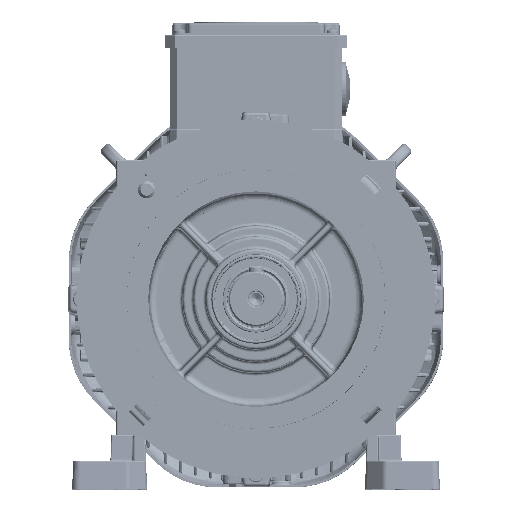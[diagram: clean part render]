
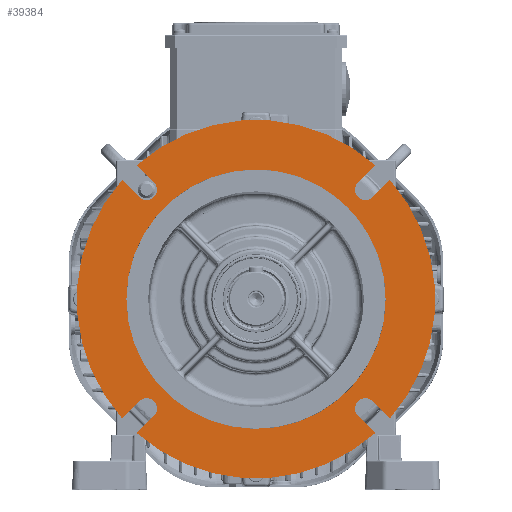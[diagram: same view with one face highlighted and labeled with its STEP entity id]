
A CAD part, top view. The second image highlights one B-rep face of the part: STEP entity #39384.
In plain terms, the highlighted planar face has unit normal (0, 0, 1).
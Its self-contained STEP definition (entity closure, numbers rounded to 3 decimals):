
#23067=FACE_BOUND('',#69487,.T.);
#23068=FACE_BOUND('',#69488,.T.);
#26090=PLANE('',#247770);
#39384=ADVANCED_FACE('',(#23067,#23068),#26090,.T.);
#69487=EDGE_LOOP('',(#128634,#128635,#128636,#128637,#128638,#128639,#128640,
#128641,#128642,#128643,#128644,#128645,#128646,#128647,#128648,#128649));
#69488=EDGE_LOOP('',(#128650));
#128634=ORIENTED_EDGE('',*,*,#184711,.F.);
#128635=ORIENTED_EDGE('',*,*,#184712,.F.);
#128636=ORIENTED_EDGE('',*,*,#184713,.F.);
#128637=ORIENTED_EDGE('',*,*,#184707,.T.);
#128638=ORIENTED_EDGE('',*,*,#184714,.F.);
#128639=ORIENTED_EDGE('',*,*,#184715,.F.);
#128640=ORIENTED_EDGE('',*,*,#184716,.F.);
#128641=ORIENTED_EDGE('',*,*,#184710,.T.);
#128642=ORIENTED_EDGE('',*,*,#184717,.F.);
#128643=ORIENTED_EDGE('',*,*,#184718,.F.);
#128644=ORIENTED_EDGE('',*,*,#184719,.F.);
#128645=ORIENTED_EDGE('',*,*,#184720,.T.);
#128646=ORIENTED_EDGE('',*,*,#184721,.F.);
#128647=ORIENTED_EDGE('',*,*,#184722,.F.);
#128648=ORIENTED_EDGE('',*,*,#184723,.F.);
#128649=ORIENTED_EDGE('',*,*,#184703,.T.);
#128650=ORIENTED_EDGE('',*,*,#184724,.F.);
#153673=VERTEX_POINT('',#460295);
#153674=VERTEX_POINT('',#460297);
#153675=VERTEX_POINT('',#460301);
#153676=VERTEX_POINT('',#460303);
#153677=VERTEX_POINT('',#460307);
#153678=VERTEX_POINT('',#460309);
#153679=VERTEX_POINT('',#460313);
#153680=VERTEX_POINT('',#460315);
#153681=VERTEX_POINT('',#460318);
#153682=VERTEX_POINT('',#460320);
#153683=VERTEX_POINT('',#460323);
#153684=VERTEX_POINT('',#460325);
#153685=VERTEX_POINT('',#460327);
#153686=VERTEX_POINT('',#460329);
#153687=VERTEX_POINT('',#460331);
#153688=VERTEX_POINT('',#460333);
#153689=VERTEX_POINT('',#460336);
#184703=EDGE_CURVE('',#153674,#153673,#223298,.T.);
#184707=EDGE_CURVE('',#153675,#153676,#223299,.T.);
#184710=EDGE_CURVE('',#153677,#153678,#223300,.T.);
#184711=EDGE_CURVE('',#153679,#153673,#198920,.T.);
#184712=EDGE_CURVE('',#153680,#153679,#223301,.T.);
#184713=EDGE_CURVE('',#153675,#153680,#198921,.T.);
#184714=EDGE_CURVE('',#153681,#153676,#198922,.T.);
#184715=EDGE_CURVE('',#153682,#153681,#223302,.T.);
#184716=EDGE_CURVE('',#153677,#153682,#198923,.T.);
#184717=EDGE_CURVE('',#153683,#153678,#198924,.T.);
#184718=EDGE_CURVE('',#153684,#153683,#223303,.T.);
#184719=EDGE_CURVE('',#153685,#153684,#198925,.T.);
#184720=EDGE_CURVE('',#153685,#153686,#223304,.T.);
#184721=EDGE_CURVE('',#153687,#153686,#198926,.T.);
#184722=EDGE_CURVE('',#153688,#153687,#223305,.T.);
#184723=EDGE_CURVE('',#153674,#153688,#198927,.T.);
#184724=EDGE_CURVE('',#153689,#153689,#223306,.T.);
#198920=LINE('',#460312,#210531);
#198921=LINE('',#460316,#210532);
#198922=LINE('',#460317,#210533);
#198923=LINE('',#460321,#210534);
#198924=LINE('',#460322,#210535);
#198925=LINE('',#460326,#210536);
#198926=LINE('',#460330,#210537);
#198927=LINE('',#460334,#210538);
#210531=VECTOR('',#306086,1.);
#210532=VECTOR('',#306089,1.);
#210533=VECTOR('',#306090,1.);
#210534=VECTOR('',#306093,1.);
#210535=VECTOR('',#306094,1.);
#210536=VECTOR('',#306097,1.);
#210537=VECTOR('',#306100,1.);
#210538=VECTOR('',#306103,1.);
#223298=CIRCLE('',#247758,124.5);
#223299=CIRCLE('',#247760,124.5);
#223300=CIRCLE('',#247762,124.5);
#223301=CIRCLE('',#247764,7.25);
#223302=CIRCLE('',#247765,7.25);
#223303=CIRCLE('',#247766,7.25);
#223304=CIRCLE('',#247767,124.5);
#223305=CIRCLE('',#247768,7.25);
#223306=CIRCLE('',#247769,90.);
#247758=AXIS2_PLACEMENT_3D('',#460296,#306069,#306070);
#247760=AXIS2_PLACEMENT_3D('',#460304,#306076,#306077);
#247762=AXIS2_PLACEMENT_3D('',#460310,#306082,#306083);
#247764=AXIS2_PLACEMENT_3D('',#460314,#306087,#306088);
#247765=AXIS2_PLACEMENT_3D('',#460319,#306091,#306092);
#247766=AXIS2_PLACEMENT_3D('',#460324,#306095,#306096);
#247767=AXIS2_PLACEMENT_3D('',#460328,#306098,#306099);
#247768=AXIS2_PLACEMENT_3D('',#460332,#306101,#306102);
#247769=AXIS2_PLACEMENT_3D('',#460335,#306104,#306105);
#247770=AXIS2_PLACEMENT_3D('',#460337,#306106,#306107);
#306069=DIRECTION('',(0.,0.,1.));
#306070=DIRECTION('',(0.707,-0.707,0.));
#306076=DIRECTION('',(0.,0.,1.));
#306077=DIRECTION('',(0.707,-0.707,0.));
#306082=DIRECTION('',(0.,0.,1.));
#306083=DIRECTION('',(0.707,-0.707,0.));
#306086=DIRECTION('',(0.707,0.707,0.));
#306087=DIRECTION('',(0.,0.,1.));
#306088=DIRECTION('',(1.,0.,0.));
#306089=DIRECTION('',(-0.707,-0.707,0.));
#306090=DIRECTION('',(-0.707,0.707,0.));
#306091=DIRECTION('',(0.,0.,1.));
#306092=DIRECTION('',(0.,1.,0.));
#306093=DIRECTION('',(0.707,-0.707,0.));
#306094=DIRECTION('',(-0.707,-0.707,0.));
#306095=DIRECTION('',(0.,0.,1.));
#306096=DIRECTION('',(-1.,0.,0.));
#306097=DIRECTION('',(0.707,0.707,0.));
#306098=DIRECTION('',(0.,0.,1.));
#306099=DIRECTION('',(0.707,-0.707,0.));
#306100=DIRECTION('',(0.707,-0.707,0.));
#306101=DIRECTION('',(0.,0.,1.));
#306102=DIRECTION('',(0.,-1.,0.));
#306103=DIRECTION('',(-0.707,0.707,0.));
#306104=DIRECTION('',(0.,0.,1.));
#306105=DIRECTION('',(0.707,0.707,0.));
#306106=DIRECTION('',(0.,0.,1.));
#306107=DIRECTION('',(-1.,0.,0.));
#460295=CARTESIAN_POINT('',(93.011,82.756,72.49));
#460296=CARTESIAN_POINT('',(-0.001,-0.003,72.495));
#460297=CARTESIAN_POINT('',(93.011,-82.762,72.497));
#460301=CARTESIAN_POINT('',(82.758,93.009,72.49));
#460303=CARTESIAN_POINT('',(-82.76,93.009,72.491));
#460304=CARTESIAN_POINT('',(-0.001,-0.003,72.495));
#460307=CARTESIAN_POINT('',(-93.013,82.756,72.492));
#460309=CARTESIAN_POINT('',(-93.013,-82.762,72.5));
#460310=CARTESIAN_POINT('',(-0.001,-0.003,72.495));
#460312=CARTESIAN_POINT('',(81.14,70.884,72.491));
#460313=CARTESIAN_POINT('',(81.14,70.884,72.491));
#460314=CARTESIAN_POINT('',(76.013,76.011,72.49));
#460315=CARTESIAN_POINT('',(70.887,81.137,72.49));
#460316=CARTESIAN_POINT('',(88.542,98.792,72.489));
#460317=CARTESIAN_POINT('',(-70.888,81.137,72.492));
#460318=CARTESIAN_POINT('',(-70.888,81.137,72.492));
#460319=CARTESIAN_POINT('',(-76.015,76.011,72.492));
#460320=CARTESIAN_POINT('',(-81.141,70.884,72.492));
#460321=CARTESIAN_POINT('',(-98.796,88.539,72.492));
#460322=CARTESIAN_POINT('',(-81.141,-70.891,72.499));
#460323=CARTESIAN_POINT('',(-81.141,-70.891,72.499));
#460324=CARTESIAN_POINT('',(-76.015,-76.017,72.499));
#460325=CARTESIAN_POINT('',(-70.888,-81.144,72.499));
#460326=CARTESIAN_POINT('',(-88.543,-98.799,72.5));
#460327=CARTESIAN_POINT('',(-82.76,-93.015,72.5));
#460328=CARTESIAN_POINT('',(-0.001,-0.003,72.495));
#460329=CARTESIAN_POINT('',(82.758,-93.015,72.498));
#460330=CARTESIAN_POINT('',(70.887,-81.144,72.498));
#460331=CARTESIAN_POINT('',(70.887,-81.144,72.498));
#460332=CARTESIAN_POINT('',(76.013,-76.017,72.497));
#460333=CARTESIAN_POINT('',(81.14,-70.891,72.497));
#460334=CARTESIAN_POINT('',(98.795,-88.546,72.498));
#460335=CARTESIAN_POINT('',(-0.001,-0.003,72.495));
#460336=CARTESIAN_POINT('',(63.639,63.636,72.491));
#460337=CARTESIAN_POINT('',(-0.001,-0.003,72.495));
